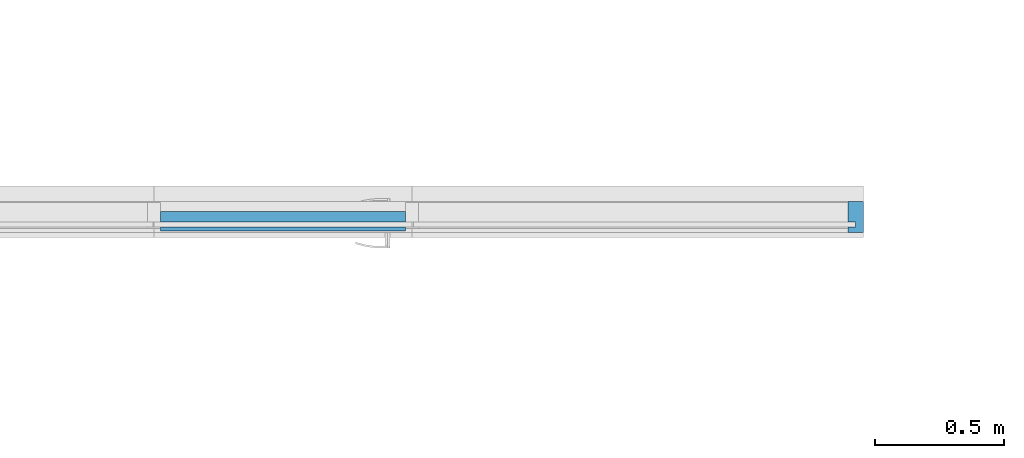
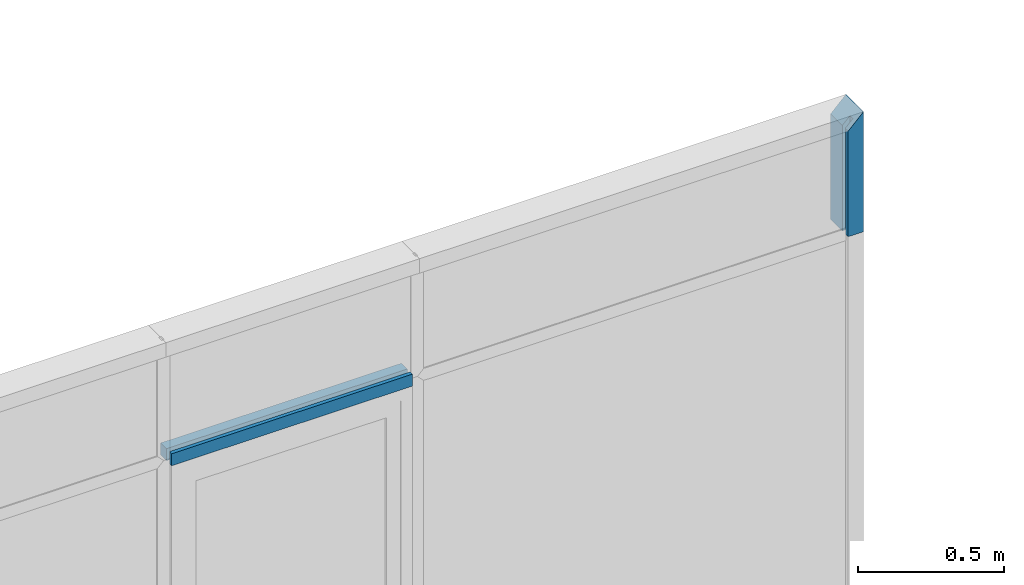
# One storey, part 2 of 7: 2 members, 1 element without a shape of its own.
"""IFC4 building model written with IfcOpenShell, lengths in millimetres."""

from ifc_helpers import new_model, entity, si_unit, converted_unit, derived_unit, direction, frame, origin_with_axes, place, context, subcontext, project, spatial, line, indexed_curve, outline, extrude, clip, halfspace, material, type_object, element, aggregate, save


model = new_model("IFC4")

# Units and contexts
model_context = context("Model", 3, precision=0.01, world=origin_with_axes(), true_north=direction((0.0, 1.0)))
body_context = subcontext(model_context, "Body", "Model", "MODEL_VIEW")
ifc_project = project(units=[si_unit("LENGTHUNIT", "METRE", prefix="MILLI"), si_unit("AREAUNIT", "SQUARE_METRE"), si_unit("VOLUMEUNIT", "CUBIC_METRE"), converted_unit("PLANEANGLEUNIT", "DEGREE", entity("IfcPlaneAngleMeasure", 0.0174532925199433), si_unit("PLANEANGLEUNIT", "RADIAN"), dimensions=[0, 0, 0, 0, 0, 0, 0]), converted_unit("TIMEUNIT", "Year", entity("IfcTimeMeasure", 31557600.0), si_unit("TIMEUNIT", "SECOND"), dimensions=[0, 0, 1, 0, 0, 0, 0]), si_unit("MASSUNIT", "GRAM", prefix="KILO"), si_unit("THERMODYNAMICTEMPERATUREUNIT", "DEGREE_CELSIUS"), si_unit("LUMINOUSINTENSITYUNIT", "LUMEN"), si_unit("ENERGYUNIT", "JOULE", prefix="MEGA"), derived_unit("THERMALCONDUCTANCEUNIT", [(si_unit("POWERUNIT", "WATT"), 1), (si_unit("LENGTHUNIT", "METRE"), -1), (si_unit("THERMODYNAMICTEMPERATUREUNIT", "KELVIN"), -1)]), derived_unit("SPECIFICHEATCAPACITYUNIT", [(si_unit("ENERGYUNIT", "JOULE"), 1), (si_unit("MASSUNIT", "GRAM", prefix="KILO"), -1), (si_unit("THERMODYNAMICTEMPERATUREUNIT", "KELVIN"), -1)]), derived_unit("MASSDENSITYUNIT", [(si_unit("MASSUNIT", "GRAM", prefix="KILO"), 1), (si_unit("VOLUMEUNIT", "CUBIC_METRE"), -1)])], contexts=[model_context])

# Site, building, storey
site_placement = place(None, origin_with_axes())
site = spatial("IfcSite", under=ifc_project, at=site_placement, Name="Exteriér", CompositionType="ELEMENT")
building_placement = place(site_placement, origin_with_axes())
building = spatial("IfcBuilding", under=site, at=building_placement, Name="Univerzitní lezecké centrum", CompositionType="ELEMENT")
storey_placement = place(building_placement, frame((0.0, 0.0, 6400.0), z_axis=(0.0, 0.0, 1.0), x_axis=(1.0, 0.0, 0.0)))
storey = spatial("IfcBuildingStorey", under=building, at=storey_placement, Name="3.NP", CompositionType="ELEMENT", Elevation=6400.0)

# Curtain wall, members
curtain_wall_type = type_object("IfcCurtainWallType", Name="Typ lehkého obvodového pláště", PredefinedType="NOTDEFINED")
curtain_wall_placement = place(storey_placement, frame((1075.010273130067, -270.0000000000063, -6400.000000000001), z_axis=(0.0, 0.0, 1.0), x_axis=(1.0, 0.0, 0.0)))
curtain_wall = element("IfcCurtainWall", 1, at=curtain_wall_placement, inside=storey, type_object=curtain_wall_type, Name="LOP06", PredefinedType="NOTDEFINED")
ifc_material = material(Name="Hliník")
member_type_1 = type_object("IfcMemberType", Name="60 x 120", PredefinedType="NOTDEFINED")
member_1_placement = place(curtain_wall_placement, frame((3625.083313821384, 0.0, 1999.999935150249), z_axis=(0.0, 0.0, 1.0), x_axis=(-1.0, 0.0, 0.0)))
member_1 = element("IfcMember", 2, at=member_1_placement, type_object=member_type_1, material=ifc_material, Name="RO246", PredefinedType="NOTDEFINED", context=body_context, shape_type="Clipping", body=[
    clip(extrude(outline(indexed_curve([(30.00000000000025, -10.00000000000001), (30.00000000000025, 10.00000000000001), (59.99999999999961, 10.00000000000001), (59.99999999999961, 30.00000000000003), (0.0, 30.00000000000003), (0.0, -90.0), (59.99999999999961, -89.99999999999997), (59.99999999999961, -10.00000000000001)], segments=[line(1, 2, 3, 4, 5, 6, 7, 8, 1)])), origin_with_axes(), (0.0, 0.0, 1.0), 499.9999963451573), halfspace(frame((249.9999981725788, 0.0, 249.9999981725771), z_axis=(-0.70710678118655, 0.0, -0.7071067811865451), x_axis=(0.0, 1.0, 0.0)), True)),
])
member_type_2 = type_object("IfcMemberType", Name="Trámky 50 x 75", PredefinedType="NOTDEFINED")
member_2_placement = place(curtain_wall_placement, frame((875.0833138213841, 0.0, 1999.999935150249), z_axis=(1.0, 0.0, 0.0), x_axis=(0.0, 0.0, 1.0)))
member_2 = element("IfcMember", 3, at=member_2_placement, type_object=member_type_2, material=ifc_material, Name="RT031", PredefinedType="NOTDEFINED", context=body_context, shape_type="SweptSolid", body=[
    extrude(outline(indexed_curve([(0.0, -9.999999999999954), (-24.99999999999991, -9.999999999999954), (-24.99999999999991, -49.99999999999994), (24.99999999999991, -49.99999999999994), (24.99999999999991, -9.999999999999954)], segments=[line(1, 2, 3, 4, 5, 1)])), frame((0.0, 0.0, 24.99999999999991), z_axis=(0.0, 0.0, 1.0), x_axis=(1.0, 0.0, 0.0)), (0.0, 0.0, 1.0), 950.0000000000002),
    extrude(outline(indexed_curve([(-24.99999999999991, 10.00000000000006), (0.0, 10.00000000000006), (24.99999999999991, 10.00000000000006), (24.99999999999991, 25.00000000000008), (-24.99999999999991, 25.00000000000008)], segments=[line(1, 2, 3, 4, 5, 1)])), frame((0.0, 0.0, 24.99999999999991), z_axis=(0.0, 0.0, 1.0), x_axis=(1.0, 0.0, 0.0)), (0.0, 0.0, 1.0), 950.0000000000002),
])
aggregate(curtain_wall, [member_1, member_2])

save(model, "model.ifc")
